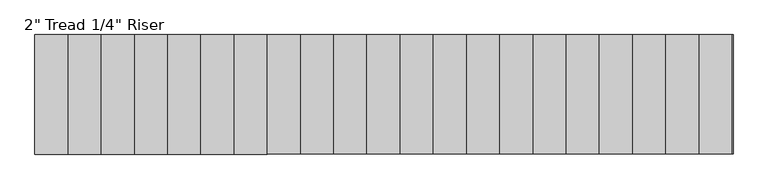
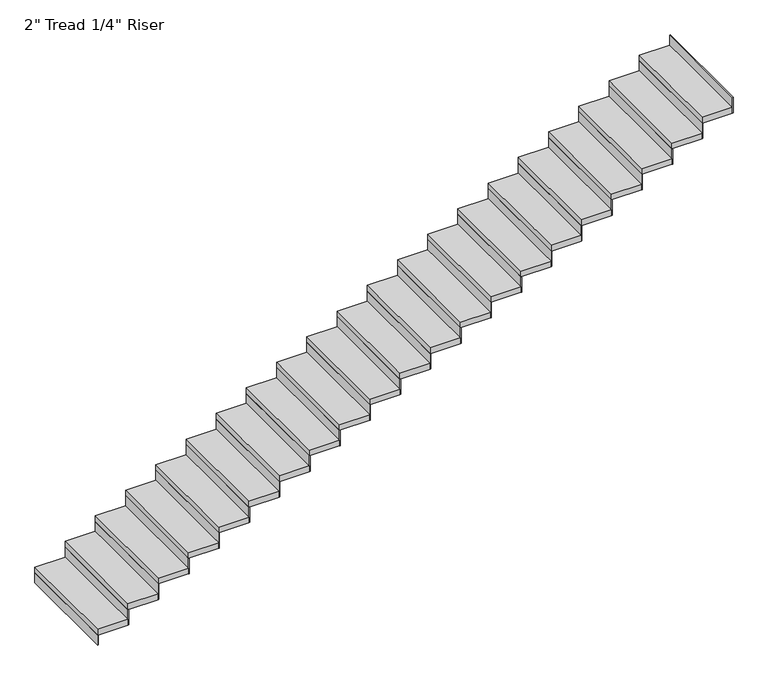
"""IFC4 building model written with IfcOpenShell, lengths in millimetres: stair flight geometry."""

from ifc_helpers import new_model, si_unit, frame, origin, origin_with_axes, place, context, project, spatial, polyline, outline, extrude, source, transform, mapped, element, save


def stair_flight_b03ca2e3(model_context):
    return source(origin(), model_context, "Body", "SweptSolid", [
        extrude(outline(polyline([(29961.699343, -1704.035031), (29955.349343, -1704.035031), (29955.349343, -789.635031), (29961.699343, -789.635031), (29961.699343, -1704.035031)])), origin_with_axes(), (0.0, 0.0, 1.0), 87.7454545),
        extrude(outline(polyline([(30209.349343, -789.635031), (30209.349343, -1704.035031), (29955.349343, -1704.035031), (29955.349343, -789.635031), (30209.349343, -789.635031)])), frame((0.0, 0.0, 87.7454545), z_axis=(0.0, 0.0, 1.0), x_axis=(1.0, 0.0, 0.0)), (0.0, 0.0, 1.0), 50.8),
        extrude(outline(polyline([(30215.699343, -1704.035031), (30209.349343, -1704.035031), (30209.349343, -789.635031), (30215.699343, -789.635031), (30215.699343, -1704.035031)])), frame((0.0, 0.0, 87.7454545), z_axis=(0.0, 0.0, 1.0), x_axis=(1.0, 0.0, 0.0)), (0.0, 0.0, 1.0), 138.5454545),
        extrude(outline(polyline([(30463.349343, -789.635031), (30463.349343, -1704.035031), (30209.349343, -1704.035031), (30209.349343, -789.635031), (30463.349343, -789.635031)])), frame((0.0, 0.0, 226.2909091), z_axis=(0.0, 0.0, 1.0), x_axis=(1.0, 0.0, 0.0)), (0.0, 0.0, 1.0), 50.8),
        extrude(outline(polyline([(30469.699343, -1704.035031), (30463.349343, -1704.035031), (30463.349343, -789.635031), (30469.699343, -789.635031), (30469.699343, -1704.035031)])), frame((0.0, 0.0, 226.2909091), z_axis=(0.0, 0.0, 1.0), x_axis=(1.0, 0.0, 0.0)), (0.0, 0.0, 1.0), 138.5454545),
        extrude(outline(polyline([(30717.349343, -789.635031), (30717.349343, -1704.035031), (30463.349343, -1704.035031), (30463.349343, -789.635031), (30717.349343, -789.635031)])), frame((0.0, 0.0, 364.8363636), z_axis=(0.0, 0.0, 1.0), x_axis=(1.0, 0.0, 0.0)), (0.0, 0.0, 1.0), 50.8),
        extrude(outline(polyline([(30723.699343, -1704.035031), (30717.349343, -1704.035031), (30717.349343, -789.635031), (30723.699343, -789.635031), (30723.699343, -1704.035031)])), frame((0.0, 0.0, 364.8363636), z_axis=(0.0, 0.0, 1.0), x_axis=(1.0, 0.0, 0.0)), (0.0, 0.0, 1.0), 138.5454545),
        extrude(outline(polyline([(30971.349343, -789.635031), (30971.349343, -1704.035031), (30717.349343, -1704.035031), (30717.349343, -789.635031), (30971.349343, -789.635031)])), frame((0.0, 0.0, 503.3818182), z_axis=(0.0, 0.0, 1.0), x_axis=(1.0, 0.0, 0.0)), (0.0, 0.0, 1.0), 50.8),
        extrude(outline(polyline([(30977.699343, -1704.035031), (30971.349343, -1704.035031), (30971.349343, -789.635031), (30977.699343, -789.635031), (30977.699343, -1704.035031)])), frame((0.0, 0.0, 503.3818182), z_axis=(0.0, 0.0, 1.0), x_axis=(1.0, 0.0, 0.0)), (0.0, 0.0, 1.0), 138.5454545),
        extrude(outline(polyline([(31225.349343, -789.635031), (31225.349343, -1704.035031), (30971.349343, -1704.035031), (30971.349343, -789.635031), (31225.349343, -789.635031)])), frame((0.0, 0.0, 641.9272727), z_axis=(0.0, 0.0, 1.0), x_axis=(1.0, 0.0, 0.0)), (0.0, 0.0, 1.0), 50.8),
        extrude(outline(polyline([(31231.699343, -1704.035031), (31225.349343, -1704.035031), (31225.349343, -789.635031), (31231.699343, -789.635031), (31231.699343, -1704.035031)])), frame((0.0, 0.0, 641.9272727), z_axis=(0.0, 0.0, 1.0), x_axis=(1.0, 0.0, 0.0)), (0.0, 0.0, 1.0), 138.5454545),
        extrude(outline(polyline([(31479.349343, -789.635031), (31479.349343, -1704.035031), (31225.349343, -1704.035031), (31225.349343, -789.635031), (31479.349343, -789.635031)])), frame((0.0, 0.0, 780.4727273), z_axis=(0.0, 0.0, 1.0), x_axis=(1.0, 0.0, 0.0)), (0.0, 0.0, 1.0), 50.8),
        extrude(outline(polyline([(31485.699343, -1704.035031), (31479.349343, -1704.035031), (31479.349343, -789.635031), (31485.699343, -789.635031), (31485.699343, -1704.035031)])), frame((0.0, 0.0, 780.4727273), z_axis=(0.0, 0.0, 1.0), x_axis=(1.0, 0.0, 0.0)), (0.0, 0.0, 1.0), 138.5454545),
        extrude(outline(polyline([(31733.349343, -789.635031), (31733.349343, -1704.035031), (31479.349343, -1704.035031), (31479.349343, -789.635031), (31733.349343, -789.635031)])), frame((0.0, 0.0, 919.0181818), z_axis=(0.0, 0.0, 1.0), x_axis=(1.0, 0.0, 0.0)), (0.0, 0.0, 1.0), 50.8),
        extrude(outline(polyline([(31739.699343, -1704.035031), (31733.349343, -1704.035031), (31733.349343, -789.635031), (31739.699343, -789.635031), (31739.699343, -1704.035031)])), frame((0.0, 0.0, 919.0181818), z_axis=(0.0, 0.0, 1.0), x_axis=(1.0, 0.0, 0.0)), (0.0, 0.0, 1.0), 138.5454545),
        extrude(outline(polyline([(31987.349343, -789.635031), (31987.349343, -1704.035031), (31733.349343, -1704.035031), (31733.349343, -789.635031), (31987.349343, -789.635031)])), frame((0.0, 0.0, 1057.5636364), z_axis=(0.0, 0.0, 1.0), x_axis=(1.0, 0.0, 0.0)), (0.0, 0.0, 1.0), 50.8),
        extrude(outline(polyline([(31993.699343, -1704.035031), (31987.349343, -1704.035031), (31987.349343, -789.635031), (31993.699343, -789.635031), (31993.699343, -1704.035031)])), frame((0.0, 0.0, 1057.5636364), z_axis=(0.0, 0.0, 1.0), x_axis=(1.0, 0.0, 0.0)), (0.0, 0.0, 1.0), 138.5454545),
        extrude(outline(polyline([(32241.349343, -789.635031), (32241.349343, -1704.035031), (31987.349343, -1704.035031), (31987.349343, -789.635031), (32241.349343, -789.635031)])), frame((0.0, 0.0, 1196.1090909), z_axis=(0.0, 0.0, 1.0), x_axis=(1.0, 0.0, 0.0)), (0.0, 0.0, 1.0), 50.8),
        extrude(outline(polyline([(32247.699343, -1704.035031), (32241.349343, -1704.035031), (32241.349343, -789.635031), (32247.699343, -789.635031), (32247.699343, -1704.035031)])), frame((0.0, 0.0, 1196.1090909), z_axis=(0.0, 0.0, 1.0), x_axis=(1.0, 0.0, 0.0)), (0.0, 0.0, 1.0), 138.5454545),
        extrude(outline(polyline([(32495.349343, -789.635031), (32495.349343, -1704.035031), (32241.349343, -1704.035031), (32241.349343, -789.635031), (32495.349343, -789.635031)])), frame((0.0, 0.0, 1334.6545455), z_axis=(0.0, 0.0, 1.0), x_axis=(1.0, 0.0, 0.0)), (0.0, 0.0, 1.0), 50.8),
        extrude(outline(polyline([(32501.699343, -1704.035031), (32495.349343, -1704.035031), (32495.349343, -789.635031), (32501.699343, -789.635031), (32501.699343, -1704.035031)])), frame((0.0, 0.0, 1334.6545455), z_axis=(0.0, 0.0, 1.0), x_axis=(1.0, 0.0, 0.0)), (0.0, 0.0, 1.0), 138.5454545),
        extrude(outline(polyline([(32749.349343, -789.635031), (32749.349343, -1704.035031), (32495.349343, -1704.035031), (32495.349343, -789.635031), (32749.349343, -789.635031)])), frame((0.0, 0.0, 1473.2), z_axis=(0.0, 0.0, 1.0), x_axis=(1.0, 0.0, 0.0)), (0.0, 0.0, 1.0), 50.8),
        extrude(outline(polyline([(32755.699343, -1704.035031), (32749.349343, -1704.035031), (32749.349343, -789.635031), (32755.699343, -789.635031), (32755.699343, -1704.035031)])), frame((0.0, 0.0, 1473.2), z_axis=(0.0, 0.0, 1.0), x_axis=(1.0, 0.0, 0.0)), (0.0, 0.0, 1.0), 138.5454545),
        extrude(outline(polyline([(33003.349343, -789.635031), (33003.349343, -1704.035031), (32749.349343, -1704.035031), (32749.349343, -789.635031), (33003.349343, -789.635031)])), frame((0.0, 0.0, 1611.7454545), z_axis=(0.0, 0.0, 1.0), x_axis=(1.0, 0.0, 0.0)), (0.0, 0.0, 1.0), 50.8),
        extrude(outline(polyline([(33009.699343, -1704.035031), (33003.349343, -1704.035031), (33003.349343, -789.635031), (33009.699343, -789.635031), (33009.699343, -1704.035031)])), frame((0.0, 0.0, 1611.7454545), z_axis=(0.0, 0.0, 1.0), x_axis=(1.0, 0.0, 0.0)), (0.0, 0.0, 1.0), 138.5454545),
        extrude(outline(polyline([(33257.349343, -789.635031), (33257.349343, -1704.035031), (33003.349343, -1704.035031), (33003.349343, -789.635031), (33257.349343, -789.635031)])), frame((0.0, 0.0, 1750.2909091), z_axis=(0.0, 0.0, 1.0), x_axis=(1.0, 0.0, 0.0)), (0.0, 0.0, 1.0), 50.8),
        extrude(outline(polyline([(33263.699343, -1704.035031), (33257.349343, -1704.035031), (33257.349343, -789.635031), (33263.699343, -789.635031), (33263.699343, -1704.035031)])), frame((0.0, 0.0, 1750.2909091), z_axis=(0.0, 0.0, 1.0), x_axis=(1.0, 0.0, 0.0)), (0.0, 0.0, 1.0), 138.5454545),
        extrude(outline(polyline([(33511.349343, -789.635031), (33511.349343, -1704.035031), (33257.349343, -1704.035031), (33257.349343, -789.635031), (33511.349343, -789.635031)])), frame((0.0, 0.0, 1888.8363636), z_axis=(0.0, 0.0, 1.0), x_axis=(1.0, 0.0, 0.0)), (0.0, 0.0, 1.0), 50.8),
        extrude(outline(polyline([(33517.699343, -1704.035031), (33511.349343, -1704.035031), (33511.349343, -789.635031), (33517.699343, -789.635031), (33517.699343, -1704.035031)])), frame((0.0, 0.0, 1888.8363636), z_axis=(0.0, 0.0, 1.0), x_axis=(1.0, 0.0, 0.0)), (0.0, 0.0, 1.0), 138.5454545),
        extrude(outline(polyline([(33765.349343, -789.635031), (33765.349343, -1704.035031), (33511.349343, -1704.035031), (33511.349343, -789.635031), (33765.349343, -789.635031)])), frame((0.0, 0.0, 2027.3818182), z_axis=(0.0, 0.0, 1.0), x_axis=(1.0, 0.0, 0.0)), (0.0, 0.0, 1.0), 50.8),
        extrude(outline(polyline([(33771.699343, -1704.035031), (33765.349343, -1704.035031), (33765.349343, -789.635031), (33771.699343, -789.635031), (33771.699343, -1704.035031)])), frame((0.0, 0.0, 2027.3818182), z_axis=(0.0, 0.0, 1.0), x_axis=(1.0, 0.0, 0.0)), (0.0, 0.0, 1.0), 138.5454545),
        extrude(outline(polyline([(34019.349343, -789.635031), (34019.349343, -1704.035031), (33765.349343, -1704.035031), (33765.349343, -789.635031), (34019.349343, -789.635031)])), frame((0.0, 0.0, 2165.9272727), z_axis=(0.0, 0.0, 1.0), x_axis=(1.0, 0.0, 0.0)), (0.0, 0.0, 1.0), 50.8),
        extrude(outline(polyline([(34025.699343, -1704.035031), (34019.349343, -1704.035031), (34019.349343, -789.635031), (34025.699343, -789.635031), (34025.699343, -1704.035031)])), frame((0.0, 0.0, 2165.9272727), z_axis=(0.0, 0.0, 1.0), x_axis=(1.0, 0.0, 0.0)), (0.0, 0.0, 1.0), 138.5454545),
        extrude(outline(polyline([(34273.349343, -789.635031), (34273.349343, -1704.035031), (34019.349343, -1704.035031), (34019.349343, -789.635031), (34273.349343, -789.635031)])), frame((0.0, 0.0, 2304.4727273), z_axis=(0.0, 0.0, 1.0), x_axis=(1.0, 0.0, 0.0)), (0.0, 0.0, 1.0), 50.8),
        extrude(outline(polyline([(34279.699343, -1704.035031), (34273.349343, -1704.035031), (34273.349343, -789.635031), (34279.699343, -789.635031), (34279.699343, -1704.035031)])), frame((0.0, 0.0, 2304.4727273), z_axis=(0.0, 0.0, 1.0), x_axis=(1.0, 0.0, 0.0)), (0.0, 0.0, 1.0), 138.5454545),
        extrude(outline(polyline([(34527.349343, -789.635031), (34527.349343, -1704.035031), (34273.349343, -1704.035031), (34273.349343, -789.635031), (34527.349343, -789.635031)])), frame((0.0, 0.0, 2443.0181818), z_axis=(0.0, 0.0, 1.0), x_axis=(1.0, 0.0, 0.0)), (0.0, 0.0, 1.0), 50.8),
        extrude(outline(polyline([(34533.699343, -1704.035031), (34527.349343, -1704.035031), (34527.349343, -789.635031), (34533.699343, -789.635031), (34533.699343, -1704.035031)])), frame((0.0, 0.0, 2443.0181818), z_axis=(0.0, 0.0, 1.0), x_axis=(1.0, 0.0, 0.0)), (0.0, 0.0, 1.0), 138.5454545),
        extrude(outline(polyline([(34781.349343, -789.635031), (34781.349343, -1704.035031), (34527.349343, -1704.035031), (34527.349343, -789.635031), (34781.349343, -789.635031)])), frame((0.0, 0.0, 2581.5636364), z_axis=(0.0, 0.0, 1.0), x_axis=(1.0, 0.0, 0.0)), (0.0, 0.0, 1.0), 50.8),
        extrude(outline(polyline([(34787.699343, -1704.035031), (34781.349343, -1704.035031), (34781.349343, -789.635031), (34787.699343, -789.635031), (34787.699343, -1704.035031)])), frame((0.0, 0.0, 2581.5636364), z_axis=(0.0, 0.0, 1.0), x_axis=(1.0, 0.0, 0.0)), (0.0, 0.0, 1.0), 138.5454545),
        extrude(outline(polyline([(35035.349343, -789.635031), (35035.349343, -1704.035031), (34781.349343, -1704.035031), (34781.349343, -789.635031), (35035.349343, -789.635031)])), frame((0.0, 0.0, 2720.1090909), z_axis=(0.0, 0.0, 1.0), x_axis=(1.0, 0.0, 0.0)), (0.0, 0.0, 1.0), 50.8),
        extrude(outline(polyline([(35041.699343, -1704.035031), (35035.349343, -1704.035031), (35035.349343, -789.635031), (35041.699343, -789.635031), (35041.699343, -1704.035031)])), frame((0.0, 0.0, 2720.1090909), z_axis=(0.0, 0.0, 1.0), x_axis=(1.0, 0.0, 0.0)), (0.0, 0.0, 1.0), 138.5454545),
        extrude(outline(polyline([(35295.699343, -1704.035031), (35289.349343, -1704.035031), (35289.349343, -789.635031), (35295.699343, -789.635031), (35295.699343, -1704.035031)])), frame((0.0, 0.0, 2858.6545455), z_axis=(0.0, 0.0, 1.0), x_axis=(1.0, 0.0, 0.0)), (0.0, 0.0, 1.0), 138.5454545),
        extrude(outline(polyline([(35289.349343, -789.635031), (35289.349343, -1704.035031), (35035.349343, -1704.035031), (35035.349343, -789.635031), (35289.349343, -789.635031)])), frame((0.0, 0.0, 2858.6545455), z_axis=(0.0, 0.0, 1.0), x_axis=(1.0, 0.0, 0.0)), (0.0, 0.0, 1.0), 50.8),
    ])


if __name__ == "__main__":
    model = new_model("IFC4")
    model_context = context("Model", 3, world=origin())
    ifc_project = project(units=[si_unit("LENGTHUNIT", "METRE", prefix="MILLI")], contexts=[model_context])
    site = spatial("IfcSite", under=ifc_project)
    building = spatial("IfcBuilding", under=site)
    placement = place(None, origin())
    stair_flight_shape = stair_flight_b03ca2e3(model_context)
    element("IfcStairFlight", 1, ObjectType="2\" Tread 1/4\" Riser", at=placement, inside=building, context=model_context, shape_type="MappedRepresentation", body=[
        mapped(stair_flight_shape, transform((0.0, 0.0, 0.0), x_axis=(1.0, 0.0, 0.0), y_axis=(0.0, 1.0, 0.0), z_axis=(0.0, 0.0, 1.0))),
    ])
    save(model, "model.ifc")
